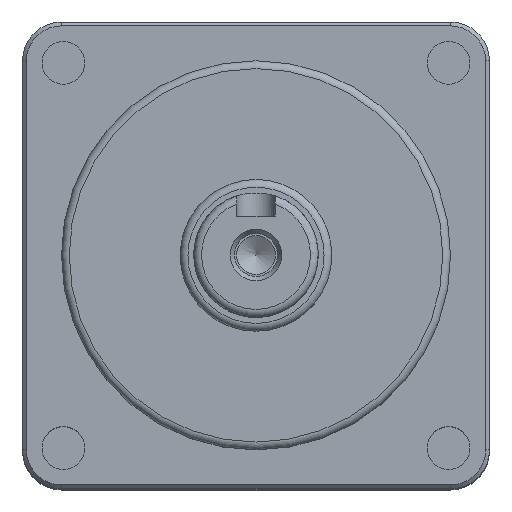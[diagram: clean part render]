
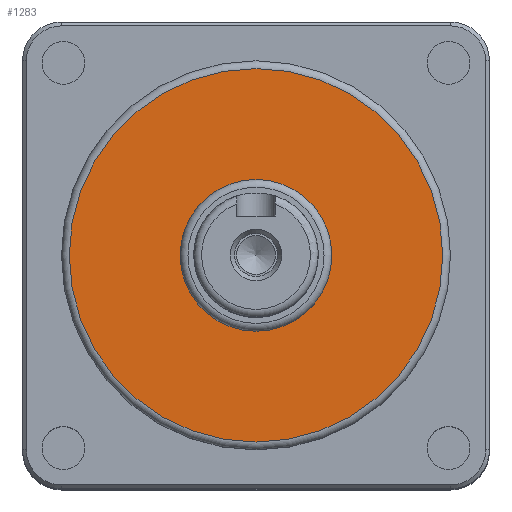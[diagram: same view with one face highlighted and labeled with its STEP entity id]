
A CAD part, top view. The second image highlights one B-rep face of the part: STEP entity #1283.
In plain terms, the highlighted planar face has unit normal (0, 0, 1).
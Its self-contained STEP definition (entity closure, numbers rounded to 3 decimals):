
#549=CARTESIAN_POINT('',(-9.75,0.,-1.0));
#550=VERTEX_POINT('',#549);
#551=CARTESIAN_POINT('',(0.0,0.0,-1.0));
#552=DIRECTION('',(0.0,0.0,1.0));
#553=DIRECTION('',(1.0,0.0,0.0));
#554=AXIS2_PLACEMENT_3D('',#551,#552,#553);
#555=CIRCLE('',#554,9.75);
#556=EDGE_CURVE('',#550,#550,#555,.T.);
#1260=CARTESIAN_POINT('',(-24.0,0.,-1.0));
#1261=VERTEX_POINT('',#1260);
#1262=CARTESIAN_POINT('',(0.0,0.0,-1.0));
#1263=DIRECTION('',(0.0,0.0,-1.0));
#1264=DIRECTION('',(1.0,0.0,0.0));
#1265=AXIS2_PLACEMENT_3D('',#1262,#1263,#1264);
#1266=CIRCLE('',#1265,24.0);
#1267=EDGE_CURVE('',#1261,#1261,#1266,.T.);
#1272=CARTESIAN_POINT('',(0.0,0.0,-1.0));
#1273=DIRECTION('',(0.0,0.0,1.0));
#1274=DIRECTION('',(1.0,0.0,0.0));
#1275=AXIS2_PLACEMENT_3D('',#1272,#1273,#1274);
#1276=PLANE('',#1275);
#1277=ORIENTED_EDGE('',*,*,#1267,.F.);
#1278=EDGE_LOOP('',(#1277));
#1279=FACE_OUTER_BOUND('',#1278,.T.);
#1280=ORIENTED_EDGE('',*,*,#556,.F.);
#1281=EDGE_LOOP('',(#1280));
#1282=FACE_BOUND('',#1281,.T.);
#1283=ADVANCED_FACE('',(#1279,#1282),#1276,.T.);
